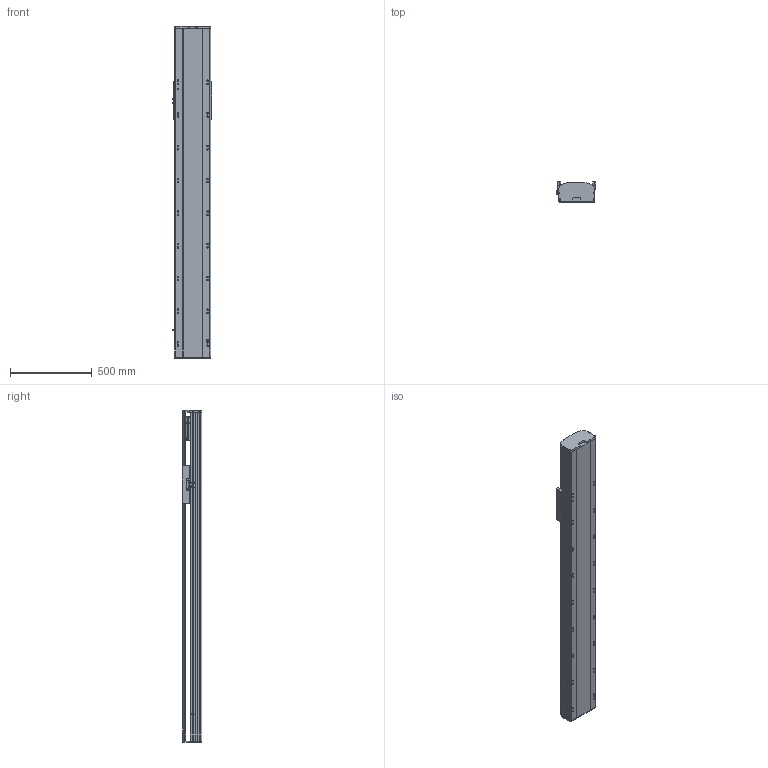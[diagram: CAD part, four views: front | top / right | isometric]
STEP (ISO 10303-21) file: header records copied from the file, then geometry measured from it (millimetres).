
FILE_DESCRIPTION (( 'STEP AP214' ), '1' );
FILE_NAME ('RTH22-XX-1400-B-M75B-C4.STEP', '2025-10-24T10:14:58', ( 'Microsoft' ), ( 'Microsoft' ), 'SwSTEP 2.0', 'SolidWorks 2018', '' );
FILE_SCHEMA (( 'AUTOMOTIVE_DESIGN' ));
Length unit declared in the file: millimetre
Products named in the file (9): RTH22-XX-1400-B-M75B-C4; N_RTH22-B-007B奻裔^RTH22-XX-XX-B-M75B-C4; N_RTH22-GY-013外置感应片^RTH22-XX-XX-B-M75B-C4; N_RTH22-B008萇儂啣^RTH22-XX-XX-B-M75B-C4; N_RTH22-B-011B菁釱^RTH22-XX-XX-B-M75B-C4; N_750W萇儂^RTH22-XX-XX-B-M75B-C4; N_RTH22-E-004-SFS25賑釱^RTH22-XX-XX-B-M75B-C4; N_OMRON EE-SX672 传感器^RTH22-XX-XX-B-M75B-C4; N_RTH22-GY-001耜裔^RTH22-XX-XX-B-M75B-C4
Assembly tree (10 placements, depth 2):
  RTH22-XX-1400-B-M75B-C4
    N_RTH22-B-011B菁釱^RTH22-XX-XX-B-M75B-C4
    N_RTH22-GY-001耜裔^RTH22-XX-XX-B-M75B-C4
    N_750W萇儂^RTH22-XX-XX-B-M75B-C4
    N_RTH22-B008萇儂啣^RTH22-XX-XX-B-M75B-C4
    N_RTH22-B-007B奻裔^RTH22-XX-XX-B-M75B-C4
    N_OMRON EE-SX672 传感器^RTH22-XX-XX-B-M75B-C4  x3
    N_RTH22-GY-013外置感应片^RTH22-XX-XX-B-M75B-C4
    N_RTH22-E-004-SFS25賑釱^RTH22-XX-XX-B-M75B-C4
Bounding box: 238.5 x 122 x 2030 mm (x, y, z)
Volume: 26628406.5 mm3; surface area: 2720746.9 mm2
Topology: 10 solids, 10 shells, 1569 faces, 4300 edges, 2773 vertices
Faces by surface type: plane 758, cylinder 466, bspline 279, cone 66
Entity records: 39407 total; most frequent: CARTESIAN_POINT 12141, ORIENTED_EDGE 5560, DIRECTION 5258, EDGE_CURVE 2780, VERTEX_POINT 1809, AXIS2_PLACEMENT_3D 1786, VECTOR 1686, LINE 1686
